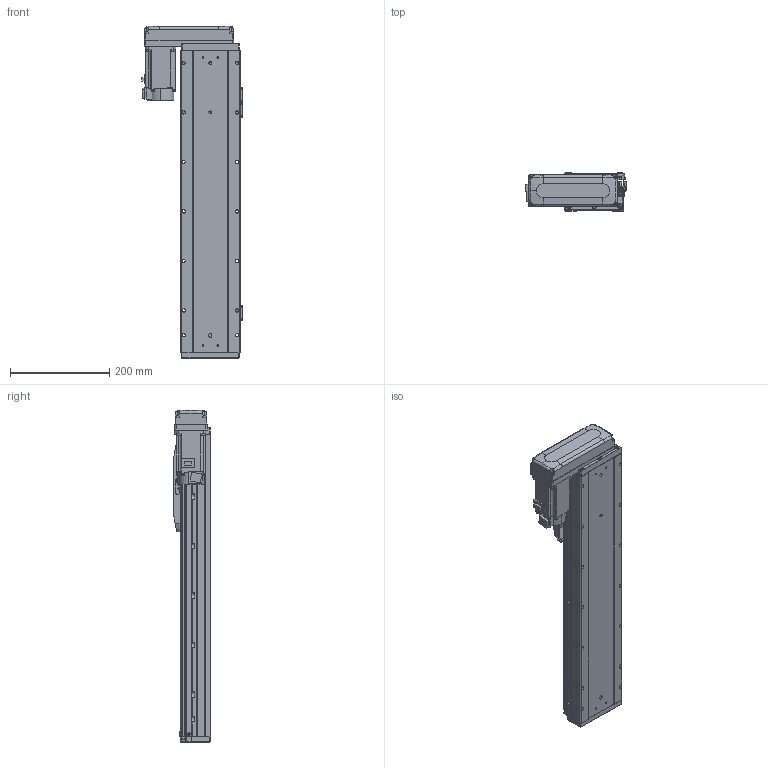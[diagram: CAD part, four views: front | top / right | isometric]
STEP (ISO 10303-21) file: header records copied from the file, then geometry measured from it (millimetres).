
FILE_DESCRIPTION (( 'STEP AP203' ), '1' );
FILE_NAME ('GTH12-400-BR-M40-C4.step', '2025-07-16T03:44:22', ( '' ), ( '' ), 'SwSTEP 2.0', 'SolidWorks 2023', '' );
FILE_SCHEMA (( 'CONFIG_CONTROL_DESIGN' ));
Length unit declared in the file: millimetre
Products named in the file (18): GTH120-006; GTH50-023; GTH12-400-BR-M40-C4; GBT 70.1-M5×16; GTH120-004; BTH-M3X5X6; GTH50-024; GTH120-027-1_GTH120-027-2; GTH80-022; GTH120-003; CTHA86-033_M40B; GTH120-001_400; GTH120-013; hg-kn43j_-s100_; GBT 70.3-M3×8; GBT96.1-2002 3×0.8; GTH80-028; GBT 70.1-M3×6
Assembly tree (59 placements, depth 2):
  GTH12-400-BR-M40-C4
    GTH120-001_400
    GTH120-003
    GTH120-006
    GTH120-004
    GTH120-013
    GBT 70.1-M3×6  x14
    GBT 70.1-M5×16  x10
    GBT 70.3-M3×8  x4
    GTH80-022
    GTH80-028  x2
    GTH50-023  x3
    GTH50-024  x3
    GBT96.1-2002 3×0.8  x6
    BTH-M3X5X6  x8
    hg-kn43j_-s100_
    CTHA86-033_M40B
    GTH120-027-1_GTH120-027-2
Bounding box: 203.5 x 76 x 670.5 mm (x, y, z)
Volume: 5223457.1 mm3; surface area: 530795.8 mm2
Topology: 61 solids, 61 shells, 2407 faces, 5600 edges, 3435 vertices
Faces by surface type: plane 1248, cylinder 687, cone 284, torus 174, sphere 8, bspline 6
Entity records: 44446 total; most frequent: CARTESIAN_POINT 7528, DIRECTION 7336, ORIENTED_EDGE 6810, EDGE_CURVE 3405, AXIS2_PLACEMENT_3D 2564, VECTOR 2208, LINE 2208, VERTEX_POINT 2156
